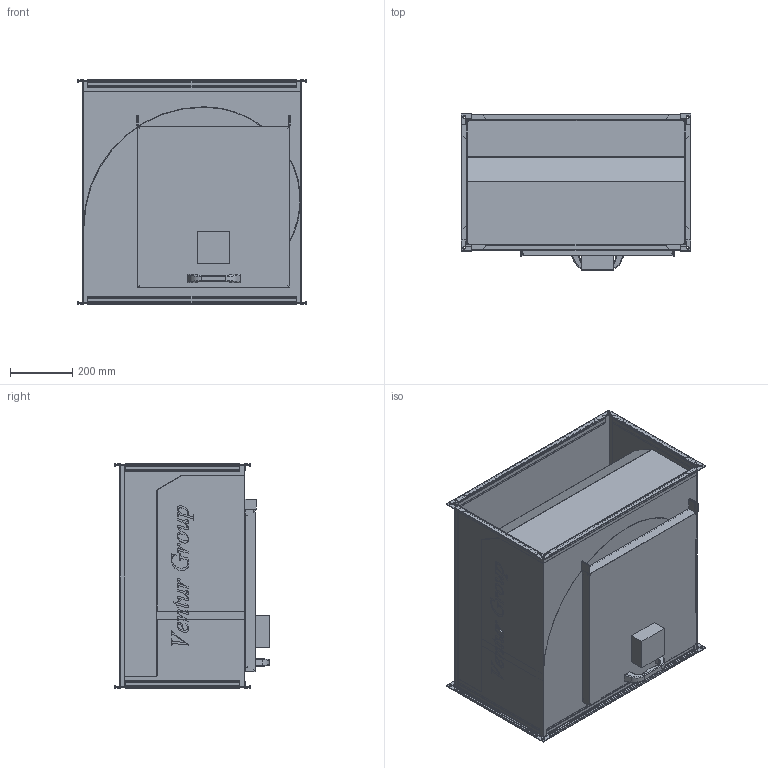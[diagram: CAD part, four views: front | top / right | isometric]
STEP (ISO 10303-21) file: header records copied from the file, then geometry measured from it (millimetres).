
FILE_DESCRIPTION(/* description */ (''),/* implementation_level */ '2;1');
FILE_NAME(/* name */ 'C:\Users\M.Janczarek\Documents\Modele uproszczone\IBF\IBF6_450T 41010180\IBF6_450T 41010180\IBF6_450T 41010180.stp',/* time_stamp */ '2018-03-26T11:31:51+02:00',/* author */ ('M.Janczarek'),/* organization */ (''),/* preprocessor_version */ 'ST-DEVELOPER v16.5',/* originating_system */ 'Autodesk Inventor 2017',/* authorisation */ '');
FILE_SCHEMA (('AUTOMOTIVE_DESIGN { 1 0 10303 214 3 1 1 }'));
Length unit declared in the file: millimetre
Products named in the file (1): IBF6_450T 41010180
Bounding box: 741 x 502.4 x 723.6 mm (x, y, z)
Volume: 44210158.6 mm3; surface area: 6869839.7 mm2
Topology: 2 solids, 2 shells, 1193 faces, 3548 edges, 2332 vertices
Faces by surface type: plane 734, bspline 267, cylinder 192
Full cylindrical faces by diameter (mm): 9 x8, 300 x1, 454 x1
Entity records: 42180 total; most frequent: CARTESIAN_POINT 10840, ORIENTED_EDGE 7056, DIRECTION 5293, EDGE_CURVE 3528, LINE 2609, VECTOR 2609, VERTEX_POINT 2316, AXIS2_PLACEMENT_3D 1342
